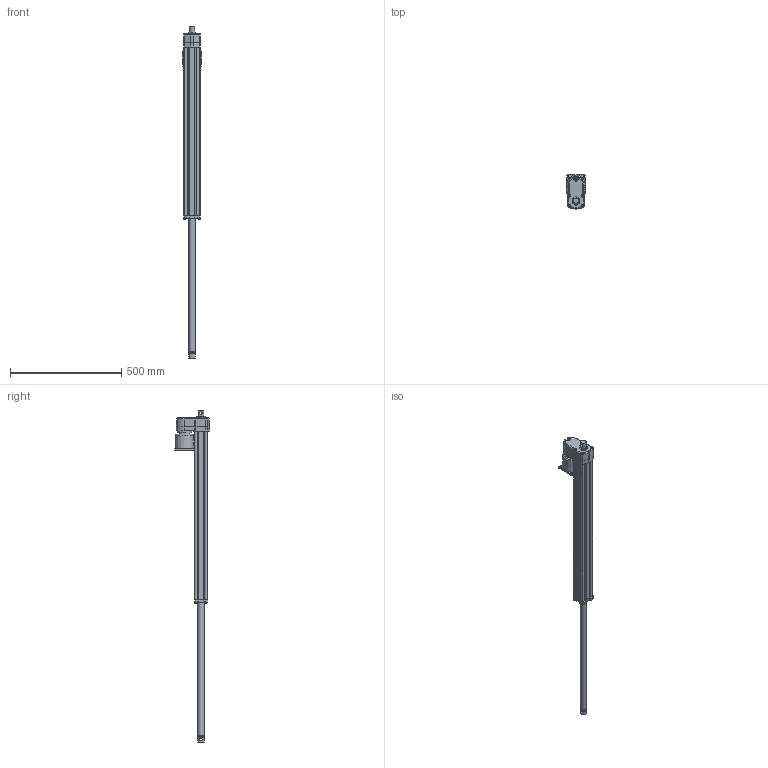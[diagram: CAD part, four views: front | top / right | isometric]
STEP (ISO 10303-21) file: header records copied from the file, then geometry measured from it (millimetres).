
FILE_DESCRIPTION (( 'STEP AP214' ), '1' );
FILE_NAME ('FA14-05B65M60M0_tollo.step', '2020-04-15T18:28:01', ( '' ), ( '' ), 'SwSTEP 2.0', 'SolidWorks 2010', '' );
FILE_SCHEMA (( 'AUTOMOTIVE_DESIGN' ));
Length unit declared in the file: millimetre
Products named in the file (9): Electrak-FA14-House-Ball-Tollo; Electrak-FA14-Rear-Tollo; Electrak-FA14-Motor-Tollo; Electrak-FA14-Tube-Ball-Tollo; Electrak-FA14-Plate-Tollo; Screw-MRT-TT-M5; Screw-M6S-M5; Electrak-FA14-Rod-Ball-Tollo; FA14-05B65M60M0_tollo
Assembly tree (15 placements, depth 3):
  FA14-05B65M60M0_tollo
    Electrak-FA14-House-Ball-Tollo
      Electrak-FA14-Plate-Tollo
      Screw-M6S-M5  x8
      Electrak-FA14-Motor-Tollo
      Electrak-FA14-Rear-Tollo
      Screw-MRT-TT-M5
      Electrak-FA14-Tube-Ball-Tollo
    Electrak-FA14-Rod-Ball-Tollo
Bounding box: 85 x 154.18 x 1494 mm (x, y, z)
Volume: 1943544.8 mm3; surface area: 663200.1 mm2
Topology: 14 solids, 14 shells, 509 faces, 1279 edges, 826 vertices
Faces by surface type: plane 234, cylinder 198, cone 57, torus 18, bspline 2
Full cylindrical faces by diameter (mm): 4.126 x8, 4.8 x6, 5 x8, 5.6 x4, 6 x1, 7 x4, 7.878 x8, 9.5 x1, 11.741 x1, 12.2 x2, 25.4 x1, 28.5 x4, 34.5 x1, 47.625 x1, 50 x1, 65 x1, 80 x1
Entity records: 11671 total; most frequent: CARTESIAN_POINT 2704, DIRECTION 1857, ORIENTED_EDGE 1700, EDGE_CURVE 850, AXIS2_PLACEMENT_3D 686, VERTEX_POINT 577, LINE 485, VECTOR 485
